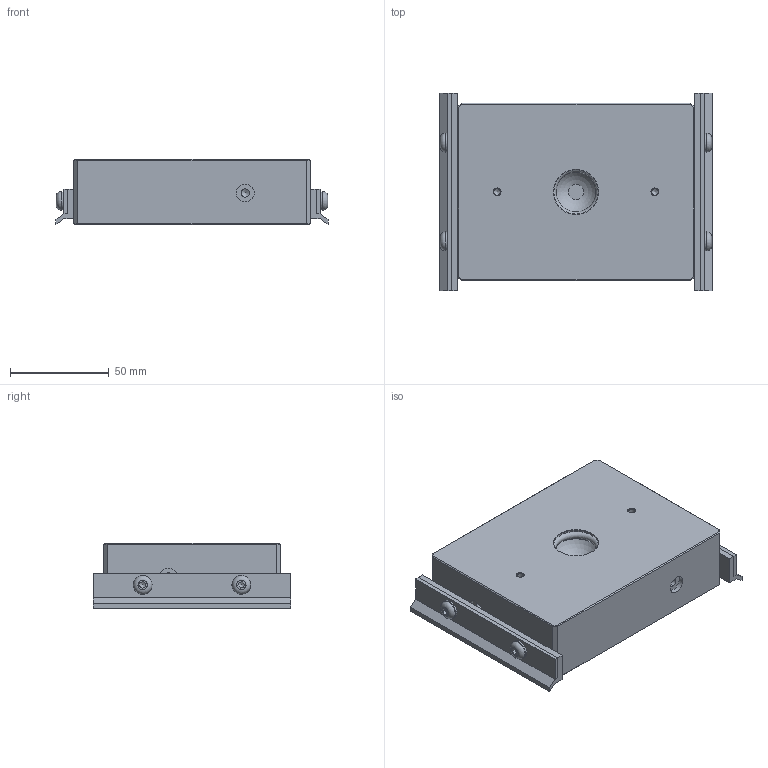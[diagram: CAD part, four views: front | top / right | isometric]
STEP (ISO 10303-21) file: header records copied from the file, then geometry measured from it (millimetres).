
FILE_DESCRIPTION(/* description */ (''),/* implementation_level */ '2;1');
FILE_NAME(/* name */ 'C:\VAULT\ARCHIVIO\MAGER\PATTINI\HRA\HRA-2010x\File Step Orazio\OK_WF10101H33200_AIRPAD HRA-2010PAW 090x120x33.0.stp',/* time_stamp */ '2021-10-19T14:50:18+02:00',/* author */ ('Orazio.Farruggio'),/* organization */ (''),/* preprocessor_version */ 'ST-DEVELOPER v18.1',/* originating_system */ 'Autodesk Inventor 2022',/* authorisation */ '');
FILE_SCHEMA (('AUTOMOTIVE_DESIGN { 1 0 10303 214 3 1 1 }'));
Length unit declared in the file: millimetre
Products named in the file (1): WF10100H33200_AIRPAD HRA-2010P 090x120x33.0___Sostituto_1
Bounding box: 138 x 100 x 33 mm (x, y, z)
Volume: 364077.9 mm3; surface area: 52782.4 mm2
Topology: 12 solids, 12 shells, 195 faces, 421 edges, 265 vertices
Faces by surface type: plane 107, cylinder 47, cone 31, torus 9, sphere 1
Full cylindrical faces by diameter (mm): 3.242 x2, 4.134 x8, 5 x4, 5.3 x4, 6 x8, 8 x1, 8.566 x6, 9 x4, 9.5 x8, 22.5 x1, 27.4 x1
Entity records: 5462 total; most frequent: CARTESIAN_POINT 924, DIRECTION 912, ORIENTED_EDGE 814, EDGE_CURVE 407, AXIS2_PLACEMENT_3D 337, VERTEX_POINT 265, EDGE_LOOP 242, LINE 238
